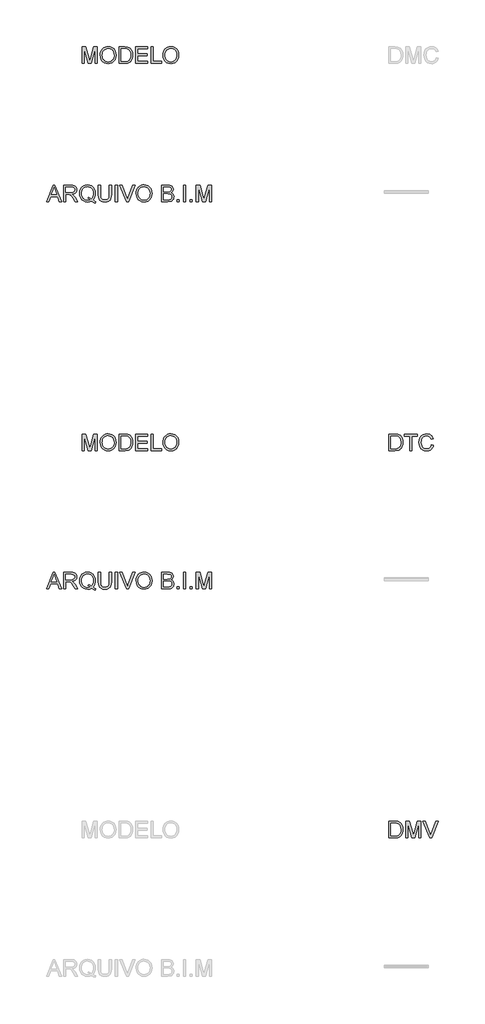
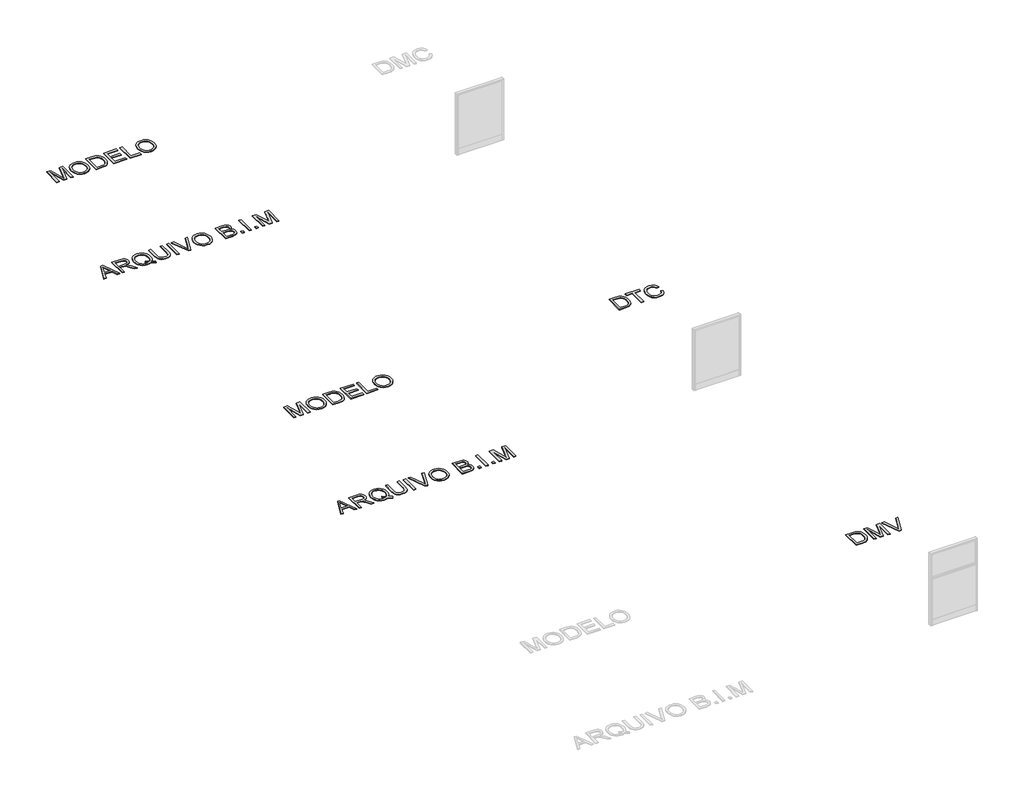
# One storey, part 2 of 3: 6 proxies.
"""IFC4 building model written with IfcOpenShell, lengths in millimetres."""

from ifc_helpers import new_model, si_unit, origin, origin_with_axes, place, context, project, spatial, polyline, outline, extrude, element, save

model = new_model("IFC4")

# Units and contexts
model_context = context("Model", 3, world=origin())
ifc_project = project(units=[si_unit("LENGTHUNIT", "METRE", prefix="MILLI")], contexts=[model_context])

# Site, building, storey
site = spatial("IfcSite", under=ifc_project)
building = spatial("IfcBuilding", under=site)
storey = spatial("IfcBuildingStorey", under=building, Name="Marelli - Linha DIVISION - Planta Baixa", Elevation=0.0)

# Proxies
placement = place(None, origin())
element("IfcBuildingElementProxy", 1, Name="300mm Arial", ObjectType="300mm Arial", at=placement, inside=storey, context=model_context, shape_type="SweptSolid", body=[
    extrude(outline(polyline([(10588.7720603, -7780.5663201), (10588.7720603, -7479.1973896), (10692.7355121, -7479.1973896), (10746.5198598, -7483.5383972), (10770.5425541, -7491.9077126), (10790.8128521, -7505.0962821), (10811.6533671, -7528.0521186), (10826.4974056, -7556.5997614), (10835.3817558, -7590.1873876), (10838.3432058, -7628.2631741), (10836.338249, -7660.6091985), (10830.3233783, -7689.0740679), (10821.1631167, -7713.3082943), (10809.7219866, -7732.9623899), (10796.5518112, -7748.477813), (10782.2044134, -7760.2960221), (10765.732497, -7769.0608107), (10746.188766, -7775.4159721), (10697.7387073, -7780.5663201), (10588.7720603, -7780.5663201)]), holes=[polyline([(10626.4431766, -7742.8952038), (10693.1033941, -7742.8952038), (10720.6761497, -7741.5340404), (10741.5902411, -7737.4505502), (10757.3723787, -7730.8838566), (10769.5492727, -7722.0730828), (10782.6366747, -7705.7667134), (10792.468321, -7684.6594839), (10798.6211474, -7658.6594239), (10800.6720895, -7627.6745629), (10796.6529787, -7586.6189322), (10784.5956463, -7556.3054558), (10766.7809607, -7535.4833349), (10745.4897902, -7522.9017706), (10723.8215407, -7518.3768221), (10692.0733245, -7516.8685059), (10626.4431766, -7516.8685059), (10626.4431766, -7742.8952038)])]), origin_with_axes(), (0.0, 0.0, 1.0), 10.0),
    extrude(outline(polyline([(10890.1409908, -7780.5663201), (10890.1409908, -7479.1973896), (10954.9617983, -7479.1973896), (11016.6188207, -7691.6124536), (11029.0532321, -7735.9790223), (11042.5177132, -7687.9336337), (11103.144666, -7479.1973896), (11167.9654735, -7479.1973896), (11167.9654735, -7780.5663201), (11130.2943572, -7780.5663201), (11130.2943572, -7516.8685059), (11054.5842426, -7780.5663201), (11003.5222217, -7780.5663201), (10927.8121071, -7516.8685059), (10927.8121071, -7780.5663201), (10890.1409908, -7780.5663201)])), origin_with_axes(), (0.0, 0.0, 1.0), 10.0),
    extrude(outline(polyline([(11322.9173699, -7780.5663201), (11202.9878394, -7479.1973896), (11243.3077061, -7479.1973896), (11323.5795575, -7696.3213432), (11339.8399417, -7745.2496485), (11355.8795966, -7696.3213432), (11436.3721772, -7479.1973896), (11476.6920439, -7479.1973896), (11361.839285, -7780.5663201), (11322.9173699, -7780.5663201)])), origin_with_axes(), (0.0, 0.0, 1.0), 10.0),
])
element("IfcBuildingElementProxy", 2, Name="300mm Arial", ObjectType="300mm Arial", at=placement, inside=storey, context=model_context, shape_type="SweptSolid", body=[
    extrude(outline(polyline([(4390.580402, -3280.5663201), (4510.8778144, -2979.1973896), (4542.9571244, -2979.1973896), (4663.2545368, -3280.5663201), (4623.449705, -3280.5663201), (4588.9423738, -3186.3885293), (4464.8189886, -3186.3885293), (4430.3852339, -3280.5663201), (4390.580402, -3280.5663201)]), holes=[polyline([(4478.6513517, -3148.717413), (4575.1835872, -3148.717413), (4548.0338959, -3074.6259792), (4526.9174694, -3016.8685059), (4508.1554877, -3068.1512561), (4478.6513517, -3148.717413)])]), origin_with_axes(), (0.0, 0.0, 1.0), 10.0),
    extrude(outline(polyline([(4703.5008271, -3280.5663201), (4703.5008271, -2979.1973896), (4833.3631714, -2979.1973896), (4868.2659757, -2981.2299376), (4893.6590304, -2987.3275817), (4912.2186771, -2998.5847708), (4926.6212572, -3016.0959537), (4935.8642923, -3037.8101885), (4938.945304, -3061.6765329), (4933.8409413, -3091.3646099), (4918.5278533, -3115.9759154), (4906.9280741, -3126.0052983), (4892.5461874, -3134.0205273), (4855.4360911, -3144.0085235), (4876.8468232, -3160.1217548), (4907.3810288, -3198.8965171), (4957.6337094, -3280.5663201), (4913.855752, -3280.5663201), (4874.6395313, -3218.0999573), (4846.3126176, -3176.750021), (4826.4102017, -3157.2154871), (4808.4943485, -3150.0417882), (4786.642158, -3148.717413), (4741.1719434, -3148.717413), (4741.1719434, -3280.5663201), (4703.5008271, -3280.5663201)]), holes=[polyline([(4741.1719434, -3111.0462967), (4825.4904967, -3111.0462967), (4849.706329, -3109.7127245), (4868.4959019, -3105.7120078), (4882.6409647, -3098.7774322), (4892.9232664, -3088.6422832), (4899.1864574, -3076.3826157), (4901.2741877, -3063.0744845), (4897.2918651, -3044.6987789), (4885.3448973, -3029.8915286), (4864.7894908, -3020.1242616), (4834.9818522, -3016.8685059), (4741.1719434, -3016.8685059), (4741.1719434, -3111.0462967)])]), origin_with_axes(), (0.0, 0.0, 1.0), 10.0),
    extrude(outline(polyline([(5231.2643374, -3244.4403081), (5255.5997314, -3263.036743), (5277.9853508, -3275.8574305), (5267.8318077, -3303.4485802), (5236.7641732, -3289.0460001), (5205.8069033, -3268.205485), (5170.9500843, -3281.0077785), (5132.5983863, -3285.2752096), (5094.0627473, -3280.3547879), (5059.2427164, -3265.5935229), (5030.0788713, -3241.9203165), (5008.5117893, -3210.2640708), (4995.185264, -3172.3630282), (4990.7430889, -3129.9554312), (4995.176067, -3087.511046), (5008.4750011, -3049.0581805), (5029.9593096, -3016.9512794), (5058.9484108, -2993.5447874), (5093.639683, -2979.2525719), (5132.2305043, -2974.4885001), (5171.1248282, -2979.3629365), (5205.9908443, -2993.9862458), (5234.9339603, -3017.3835407), (5256.0595839, -3048.5799339), (5268.9722419, -3085.9199564), (5273.2764612, -3127.7481393), (5270.6644991, -3162.5313819), (5262.8286126, -3193.5990164), (5249.7136194, -3220.9142546), (5231.2643374, -3244.4403081)]), holes=[polyline([(5142.9726585, -3194.3347804), (5174.6472983, -3206.3093393), (5200.215097, -3222.9559996), (5215.6983305, -3205.4816049), (5226.7577829, -3184.1076609), (5233.3934544, -3158.8341679), (5235.6053449, -3129.6611256), (5232.478348, -3096.5057608), (5223.0973571, -3067.8201623), (5207.6922985, -3044.3308969), (5186.4930986, -3026.7645316), (5160.934497, -3015.8108452), (5132.4512335, -3012.1596164), (5110.966925, -3014.0059242), (5091.3956028, -3019.5448474), (5073.7372671, -3028.7763863), (5057.9919177, -3041.7005406), (5045.0516685, -3058.2897193), (5035.8086334, -3078.5163313), (5030.2628123, -3102.3803764), (5028.4142052, -3129.8818548), (5030.2421189, -3156.6659634), (5035.7258599, -3180.1437324), (5044.8654282, -3200.3151621), (5057.6608239, -3217.1802523), (5073.2981079, -3230.4906827), (5090.9633415, -3239.9981331), (5110.6565245, -3245.7026032), (5132.3776571, -3247.6040933), (5153.2917485, -3245.6727128), (5172.918253, -3239.8785714), (5153.6228423, -3229.853787), (5133.2605739, -3223.1767288), (5142.9726585, -3194.3347804)])]), origin_with_axes(), (0.0, 0.0, 1.0), 10.0),
    extrude(outline(polyline([(5527.5564963, -2979.1973896), (5565.2276126, -2979.1973896), (5565.2276126, -3153.0584205), (5562.6708327, -3193.7737604), (5555.0004931, -3225.1265034), (5540.6714894, -3249.3147446), (5518.1387172, -3268.5365788), (5487.3469942, -3281.0905519), (5448.2411381, -3285.2752096), (5409.9906077, -3281.6331779), (5379.4104168, -3270.7070826), (5356.4913685, -3252.8740029), (5341.2242657, -3228.5110178), (5332.6434182, -3195.8338995), (5329.7831357, -3153.0584205), (5329.7831357, -2979.1973896), (5367.454252, -2979.1973896), (5367.454252, -3151.7340454), (5369.3120561, -3185.588386), (5374.8854683, -3209.1604248), (5384.9838291, -3225.4851883), (5400.4164788, -3237.597703), (5420.5396239, -3245.1024957), (5444.709471, -3247.6040933), (5483.0243808, -3242.6560805), (5497.3671801, -3236.4710644), (5508.500209, -3227.812042), (5516.8373347, -3215.6351479), (5522.7924245, -3198.8965171), (5527.5564963, -3151.7340454), (5527.5564963, -2979.1973896)])), origin_with_axes(), (0.0, 0.0, 1.0), 10.0),
    extrude(outline(polyline([(5635.8609557, -3280.5663201), (5635.8609557, -2979.1973896), (5673.532072, -2979.1973896), (5673.532072, -3280.5663201), (5635.8609557, -3280.5663201)])), origin_with_axes(), (0.0, 0.0, 1.0), 10.0),
    extrude(outline(polyline([(5837.9017474, -3280.5663201), (5717.972217, -2979.1973896), (5758.2920837, -2979.1973896), (5838.563935, -3196.3213432), (5854.8243192, -3245.2496485), (5870.8639742, -3196.3213432), (5951.3565547, -2979.1973896), (5991.6764214, -2979.1973896), (5876.8236625, -3280.5663201), (5837.9017474, -3280.5663201)])), origin_with_axes(), (0.0, 0.0, 1.0), 10.0),
    extrude(outline(polyline([(6012.5721187, -3133.8549804), (6015.0829134, -3098.5061192), (6022.6152972, -3067.213157), (6035.1692703, -3039.9760937), (6052.7448326, -3016.7949295), (6074.288922, -2998.2858666), (6098.7484761, -2985.0651074), (6126.1234951, -2977.1326519), (6156.4139789, -2974.4885001), (6195.9428992, -2979.454907), (6231.3883295, -2994.3541278), (6260.8188891, -3018.1376988), (6282.3031976, -3049.7571563), (6295.4365848, -3087.68579), (6299.8143806, -3130.3968896), (6295.2066586, -3173.6782064), (6281.3834926, -3212.140269), (6259.1082378, -3243.8149088), (6229.1442493, -3266.733957), (6194.0023217, -3280.6398965), (6156.1932497, -3285.2752096), (6116.057324, -3280.1524528), (6080.4095587, -3264.7841825), (6051.0525754, -3240.5591531), (6029.7889961, -3208.8661192), (6016.8763381, -3172.3998164), (6012.5721187, -3133.8549804)]), holes=[polyline([(6050.2432351, -3134.2228624), (6052.126331, -3159.1974513), (6057.7756189, -3181.3669401), (6067.1910987, -3200.7313286), (6080.3727705, -3217.2906169), (6096.3963306, -3230.5527628), (6114.3374757, -3240.0257242), (6134.1962056, -3245.709501), (6155.9725205, -3247.6040933), (6178.1213158, -3245.6911069), (6198.2145706, -3239.9521478), (6216.2522846, -3230.3872159), (6232.2344581, -3216.9963113), (6245.3195608, -3200.0875351), (6254.6660627, -3179.9689885), (6260.2739639, -3156.6406715), (6262.1432643, -3130.102584), (6258.9426909, -3096.7540812), (6249.3409708, -3067.9305269), (6233.5864244, -3044.358488), (6211.9273719, -3026.7645316), (6185.7985532, -3015.8108452), (6156.6347081, -3012.1596164), (6135.6148506, -3013.9185522), (6116.1125063, -3019.1953595), (6098.1276752, -3027.9900385), (6081.6603574, -3040.302589), (6067.9153664, -3056.7262208), (6058.0975156, -3077.8541437), (6052.2068052, -3103.6863575), (6050.2432351, -3134.2228624)])]), origin_with_axes(), (0.0, 0.0, 1.0), 10.0),
    extrude(outline(polyline([(6469.334404, -3280.5663201), (6469.334404, -2979.1973896), (6584.3343156, -2979.1973896), (6615.9629702, -2981.4138786), (6640.6570491, -2988.0633457), (6659.5845778, -2999.3113377), (6673.9135815, -3015.3234015), (6682.9358874, -3034.1589597), (6685.9433227, -3053.8774346), (6683.414134, -3072.0232141), (6675.8265679, -3089.0837416), (6663.125442, -3104.0105535), (6645.2555741, -3115.7551862), (6666.6019268, -3126.9020107), (6682.3748674, -3143.8613707), (6692.1145432, -3165.5112261), (6695.3611018, -3190.7295368), (6693.1446128, -3211.7447958), (6686.4951457, -3231.2333445), (6676.5715289, -3247.8064284), (6664.5325906, -3260.0752929), (6649.7897196, -3268.9596431), (6631.7543048, -3275.3791839), (6583.4513989, -3280.5663201), (6469.334404, -3280.5663201)]), holes=[polyline([(6507.0055203, -3101.6285176), (6575.7994534, -3101.6285176), (6615.9721672, -3098.3911561), (6630.0344565, -3092.8085468), (6640.1420143, -3084.4484284), (6646.2396584, -3073.4395597), (6648.2722064, -3059.9106994), (6646.3776141, -3046.7773121), (6640.6938373, -3035.3361821), (6631.4783933, -3026.4058467), (6618.9887996, -3020.8048433), (6570.575529, -3016.8685059), (6507.0055203, -3016.8685059), (6507.0055203, -3101.6285176)]), polyline([(6507.0055203, -3242.8952038), (6584.2607393, -3242.8952038), (6612.2197709, -3241.4236758), (6635.8745832, -3233.2199073), (6651.5463562, -3216.4812765), (6656.1540782, -3204.6538704), (6657.6899855, -3191.0974188), (6655.8873637, -3175.3520694), (6650.4794984, -3161.814012), (6641.0341282, -3151.2282076), (6627.1189917, -3144.3396173), (6607.4097138, -3140.5596298), (6580.5819193, -3139.2996339), (6507.0055203, -3139.2996339), (6507.0055203, -3242.8952038)])]), origin_with_axes(), (0.0, 0.0, 1.0), 10.0),
    extrude(outline(polyline([(6751.8677763, -3280.5663201), (6751.8677763, -3242.8952038), (6789.5388926, -3242.8952038), (6789.5388926, -3280.5663201), (6751.8677763, -3280.5663201)])), origin_with_axes(), (0.0, 0.0, 1.0), 10.0),
    extrude(outline(polyline([(6869.5900147, -3280.5663201), (6869.5900147, -2979.1973896), (6907.261131, -2979.1973896), (6907.261131, -3280.5663201), (6869.5900147, -3280.5663201)])), origin_with_axes(), (0.0, 0.0, 1.0), 10.0),
    extrude(outline(polyline([(6987.3122532, -3280.5663201), (6987.3122532, -3242.8952038), (7024.9833695, -3242.8952038), (7024.9833695, -3280.5663201), (6987.3122532, -3280.5663201)])), origin_with_axes(), (0.0, 0.0, 1.0), 10.0),
    extrude(outline(polyline([(7100.3256021, -3280.5663201), (7100.3256021, -2979.1973896), (7165.1464096, -2979.1973896), (7226.803432, -3191.6124536), (7239.2378435, -3235.9790223), (7252.7023245, -3187.9336337), (7313.3292773, -2979.1973896), (7378.1500848, -2979.1973896), (7378.1500848, -3280.5663201), (7340.4789685, -3280.5663201), (7340.4789685, -3016.8685059), (7264.7688539, -3280.5663201), (7213.706833, -3280.5663201), (7137.9967184, -3016.8685059), (7137.9967184, -3280.5663201), (7100.3256021, -3280.5663201)])), origin_with_axes(), (0.0, 0.0, 1.0), 10.0),
])
element("IfcBuildingElementProxy", 3, Name="300mm Arial", ObjectType="300mm Arial", at=placement, inside=storey, context=model_context, shape_type="SweptSolid", body=[
    extrude(outline(polyline([(10588.7720603, -780.5663201), (10588.7720603, -479.1973896), (10692.7355121, -479.1973896), (10746.5198598, -483.5383972), (10770.5425541, -491.9077126), (10790.8128521, -505.0962821), (10811.6533671, -528.0521186), (10826.4974056, -556.5997614), (10835.3817558, -590.1873876), (10838.3432058, -628.2631741), (10836.338249, -660.6091985), (10830.3233783, -689.0740679), (10821.1631167, -713.3082943), (10809.7219866, -732.9623899), (10796.5518112, -748.477813), (10782.2044134, -760.2960221), (10765.732497, -769.0608107), (10746.188766, -775.4159721), (10697.7387073, -780.5663201), (10588.7720603, -780.5663201)]), holes=[polyline([(10626.4431766, -742.8952038), (10693.1033941, -742.8952038), (10720.6761497, -741.5340404), (10741.5902411, -737.4505502), (10757.3723787, -730.8838566), (10769.5492727, -722.0730828), (10782.6366747, -705.7667134), (10792.468321, -684.6594839), (10798.6211474, -658.6594239), (10800.6720895, -627.6745629), (10796.6529787, -586.6189322), (10784.5956463, -556.3054558), (10766.7809607, -535.4833349), (10745.4897902, -522.9017706), (10723.8215407, -518.3768221), (10692.0733245, -516.8685059), (10626.4431766, -516.8685059), (10626.4431766, -742.8952038)])]), origin_with_axes(), (0.0, 0.0, 1.0), 10.0),
    extrude(outline(polyline([(10965.4832234, -780.5663201), (10965.4832234, -516.8685059), (10866.5965431, -516.8685059), (10866.5965431, -479.1973896), (11102.04102, -479.1973896), (11102.04102, -516.8685059), (11003.1543397, -516.8685059), (11003.1543397, -780.5663201), (10965.4832234, -780.5663201)])), origin_with_axes(), (0.0, 0.0, 1.0), 10.0),
    extrude(outline(polyline([(11356.321055, -673.4390831), (11393.9921713, -683.1511677), (11386.5379624, -706.5783531), (11376.6097471, -727.0486868), (11364.2075253, -744.5621691), (11349.3312971, -759.1187997), (11332.3167549, -770.5622291), (11313.4995908, -778.7361071), (11292.879805, -783.640434), (11270.4573974, -785.2752096), (11226.7622134, -780.3271968), (11192.0617442, -765.4831583), (11165.4638759, -741.2581289), (11146.0764948, -708.1671434), (11134.2398916, -669.2636224), (11130.2943572, -627.6009865), (11134.7549264, -583.6574821), (11148.136634, -545.7104543), (11169.7405041, -514.9647166), (11198.8675611, -492.6250824), (11233.4116805, -479.0226457), (11271.2667378, -474.4885001), (11312.5706888, -480.3562179), (11330.539425, -487.6908652), (11346.719335, -497.9593714), (11360.8437043, -510.8904235), (11372.6458186, -526.2127086), (11389.2832818, -564.0309777), (11351.6121655, -573.0072984), (11338.5523547, -545.5357104), (11320.7100779, -526.6909552), (11297.864606, -515.7924511), (11269.7952098, -512.1596164), (11237.4399883, -516.1879242), (11210.8605141, -528.2728478), (11190.6913838, -547.1451941), (11177.5671936, -571.5357704), (11170.3659035, -599.1085259), (11167.9654735, -627.5274101), (11170.8073619, -662.3290468), (11179.3330272, -692.421794), (11193.864366, -716.6560205), (11214.7232751, -733.8820949), (11239.7300537, -744.1735937), (11266.705001, -747.6040933), (11298.1497146, -742.931992), (11324.3521097, -728.9156879), (11344.1349639, -705.702334), (11356.321055, -673.4390831)])), origin_with_axes(), (0.0, 0.0, 1.0), 10.0),
])
element("IfcBuildingElementProxy", 4, Name="300mm Arial", ObjectType="300mm Arial", at=placement, inside=storey, context=model_context, shape_type="SweptSolid", body=[
    extrude(outline(polyline([(5033.1230948, -780.5663201), (5033.1230948, -479.1973896), (5097.9439023, -479.1973896), (5159.6009247, -691.6124536), (5172.0353362, -735.9790223), (5185.4998172, -687.9336337), (5246.12677, -479.1973896), (5310.9475775, -479.1973896), (5310.9475775, -780.5663201), (5273.2764612, -780.5663201), (5273.2764612, -516.8685059), (5197.5663466, -780.5663201), (5146.5043257, -780.5663201), (5070.7942111, -516.8685059), (5070.7942111, -780.5663201), (5033.1230948, -780.5663201)])), origin_with_axes(), (0.0, 0.0, 1.0), 10.0),
    extrude(outline(polyline([(5362.7453625, -633.8549804), (5365.2561571, -598.5061192), (5372.7885409, -567.213157), (5385.342514, -539.9760937), (5402.9180763, -516.7949295), (5424.4621657, -498.2858666), (5448.9217198, -485.0651074), (5476.2967388, -477.1326519), (5506.5872226, -474.4885001), (5546.116143, -479.454907), (5581.5615732, -494.3541278), (5610.9921328, -518.1376988), (5632.4764413, -549.7571563), (5645.6098286, -587.68579), (5649.9876243, -630.3968896), (5645.3799023, -673.6782064), (5631.5567363, -712.140269), (5609.2814815, -743.8149088), (5579.317493, -766.733957), (5544.1755654, -780.6398965), (5506.3664934, -785.2752096), (5466.2305677, -780.1524528), (5430.5828024, -764.7841825), (5401.2258192, -740.5591531), (5379.9622398, -708.8661192), (5367.0495818, -672.3998164), (5362.7453625, -633.8549804)]), holes=[polyline([(5400.4164788, -634.2228624), (5402.2995747, -659.1974513), (5407.9488626, -681.3669401), (5417.3643424, -700.7313286), (5430.5460142, -717.2906169), (5446.5695743, -730.5527628), (5464.5107194, -740.0257242), (5484.3694493, -745.709501), (5506.1457642, -747.6040933), (5528.2945596, -745.6911069), (5548.3878143, -739.9521478), (5566.4255284, -730.3872159), (5582.4077018, -716.9963113), (5595.4928045, -700.0875351), (5604.8393064, -679.9689885), (5610.4472076, -656.6406715), (5612.316508, -630.102584), (5609.1159346, -596.7540812), (5599.5142146, -567.9305269), (5583.7596681, -544.358488), (5562.1006157, -526.7645316), (5535.9717969, -515.8108452), (5506.8079518, -512.1596164), (5485.7880943, -513.9185522), (5466.28575, -519.1953595), (5448.300919, -527.9900385), (5431.8336012, -540.302589), (5418.0886101, -556.7262208), (5408.2707594, -577.8541437), (5402.3800489, -603.6863575), (5400.4164788, -634.2228624)])]), origin_with_axes(), (0.0, 0.0, 1.0), 10.0),
    extrude(outline(polyline([(5701.7854092, -780.5663201), (5701.7854092, -479.1973896), (5805.7488611, -479.1973896), (5859.5332088, -483.5383972), (5883.555903, -491.9077126), (5903.826201, -505.0962821), (5924.666716, -528.0521186), (5939.5107545, -556.5997614), (5948.3951047, -590.1873876), (5951.3565547, -628.2631741), (5949.3515979, -660.6091985), (5943.3367273, -689.0740679), (5934.1764656, -713.3082943), (5922.7353355, -732.9623899), (5909.5651601, -748.477813), (5895.2177623, -760.2960221), (5878.745846, -769.0608107), (5859.202115, -775.4159721), (5810.7520562, -780.5663201), (5701.7854092, -780.5663201)]), holes=[polyline([(5739.4565255, -742.8952038), (5806.1167431, -742.8952038), (5833.6894986, -741.5340404), (5854.60359, -737.4505502), (5870.3857276, -730.8838566), (5882.5626217, -722.0730828), (5895.6500236, -705.7667134), (5905.4816699, -684.6594839), (5911.6344963, -658.6594239), (5913.6854384, -627.6745629), (5909.6663276, -586.6189322), (5897.6089953, -556.3054558), (5879.7943096, -535.4833349), (5858.5031392, -522.9017706), (5836.8348896, -518.3768221), (5805.0866735, -516.8685059), (5739.4565255, -516.8685059), (5739.4565255, -742.8952038)])]), origin_with_axes(), (0.0, 0.0, 1.0), 10.0),
    extrude(outline(polyline([(6003.1543397, -780.5663201), (6003.1543397, -479.1973896), (6219.7632584, -479.1973896), (6219.7632584, -516.8685059), (6040.825456, -516.8685059), (6040.825456, -606.3374072), (6210.3454794, -606.3374072), (6210.3454794, -644.0085235), (6040.825456, -644.0085235), (6040.825456, -742.8952038), (6224.472148, -742.8952038), (6224.472148, -780.5663201), (6003.1543397, -780.5663201)])), origin_with_axes(), (0.0, 0.0, 1.0), 10.0),
    extrude(outline(polyline([(6280.9788224, -780.5663201), (6280.9788224, -479.1973896), (6318.6499387, -479.1973896), (6318.6499387, -742.8952038), (6469.334404, -742.8952038), (6469.334404, -780.5663201), (6280.9788224, -780.5663201)])), origin_with_axes(), (0.0, 0.0, 1.0), 10.0),
    extrude(outline(polyline([(6497.5877412, -633.8549804), (6500.0985358, -598.5061192), (6507.6309197, -567.213157), (6520.1848927, -539.9760937), (6537.7604551, -516.7949295), (6559.3045444, -498.2858666), (6583.7640986, -485.0651074), (6611.1391175, -477.1326519), (6641.4296013, -474.4885001), (6680.9585217, -479.454907), (6716.4039519, -494.3541278), (6745.8345115, -518.1376988), (6767.3188201, -549.7571563), (6780.4522073, -587.68579), (6784.830003, -630.3968896), (6780.222281, -673.6782064), (6766.3991151, -712.140269), (6744.1238603, -743.8149088), (6714.1598717, -766.733957), (6679.0179442, -780.6398965), (6641.2088721, -785.2752096), (6601.0729464, -780.1524528), (6565.4251811, -764.7841825), (6536.0681979, -740.5591531), (6514.8046186, -708.8661192), (6501.8919605, -672.3998164), (6497.5877412, -633.8549804)]), holes=[polyline([(6535.2588575, -634.2228624), (6537.1419535, -659.1974513), (6542.7912413, -681.3669401), (6552.2067212, -700.7313286), (6565.3883929, -717.2906169), (6581.4119531, -730.5527628), (6599.3530981, -740.0257242), (6619.2118281, -745.709501), (6640.9881429, -747.6040933), (6663.1369383, -745.6911069), (6683.230193, -739.9521478), (6701.2679071, -730.3872159), (6717.2500805, -716.9963113), (6730.3351832, -700.0875351), (6739.6816852, -679.9689885), (6745.2895863, -656.6406715), (6747.1588867, -630.102584), (6743.9583134, -596.7540812), (6734.3565933, -567.9305269), (6718.6020468, -544.358488), (6696.9429944, -526.7645316), (6670.8141757, -515.8108452), (6641.6503305, -512.1596164), (6620.630473, -513.9185522), (6601.1281287, -519.1953595), (6583.1432977, -527.9900385), (6566.6759799, -540.302589), (6552.9309888, -556.7262208), (6543.1131381, -577.8541437), (6537.2224276, -603.6863575), (6535.2588575, -634.2228624)])]), origin_with_axes(), (0.0, 0.0, 1.0), 10.0),
])
element("IfcBuildingElementProxy", 5, Name="300mm Arial", ObjectType="300mm Arial", at=placement, inside=storey, context=model_context, shape_type="SweptSolid", body=[
    extrude(outline(polyline([(4390.580402, 3719.4336799), (4510.8778144, 4020.8026104), (4542.9571244, 4020.8026104), (4663.2545368, 3719.4336799), (4623.449705, 3719.4336799), (4588.9423738, 3813.6114707), (4464.8189886, 3813.6114707), (4430.3852339, 3719.4336799), (4390.580402, 3719.4336799)]), holes=[polyline([(4478.6513517, 3851.282587), (4575.1835872, 3851.282587), (4548.0338959, 3925.3740208), (4526.9174694, 3983.1314941), (4508.1554877, 3931.8487439), (4478.6513517, 3851.282587)])]), origin_with_axes(), (0.0, 0.0, 1.0), 10.0),
    extrude(outline(polyline([(4703.5008271, 3719.4336799), (4703.5008271, 4020.8026104), (4833.3631714, 4020.8026104), (4868.2659757, 4018.7700624), (4893.6590304, 4012.6724183), (4912.2186771, 4001.4152292), (4926.6212572, 3983.9040463), (4935.8642923, 3962.1898115), (4938.945304, 3938.3234671), (4933.8409413, 3908.6353901), (4918.5278533, 3884.0240846), (4906.9280741, 3873.9947017), (4892.5461874, 3865.9794727), (4855.4360911, 3855.9914765), (4876.8468232, 3839.8782452), (4907.3810288, 3801.1034829), (4957.6337094, 3719.4336799), (4913.855752, 3719.4336799), (4874.6395313, 3781.9000427), (4846.3126176, 3823.249979), (4826.4102017, 3842.7845129), (4808.4943485, 3849.9582118), (4786.642158, 3851.282587), (4741.1719434, 3851.282587), (4741.1719434, 3719.4336799), (4703.5008271, 3719.4336799)]), holes=[polyline([(4741.1719434, 3888.9537033), (4825.4904967, 3888.9537033), (4849.706329, 3890.2872755), (4868.4959019, 3894.2879922), (4882.6409647, 3901.2225678), (4892.9232664, 3911.3577168), (4899.1864574, 3923.6173843), (4901.2741877, 3936.9255155), (4897.2918651, 3955.3012211), (4885.3448973, 3970.1084714), (4864.7894908, 3979.8757384), (4834.9818522, 3983.1314941), (4741.1719434, 3983.1314941), (4741.1719434, 3888.9537033)])]), origin_with_axes(), (0.0, 0.0, 1.0), 10.0),
    extrude(outline(polyline([(5231.2643374, 3755.5596919), (5255.5997314, 3736.963257), (5277.9853508, 3724.1425695), (5267.8318077, 3696.5514198), (5236.7641732, 3710.9539999), (5205.8069033, 3731.794515), (5170.9500843, 3718.9922215), (5132.5983863, 3714.7247904), (5094.0627473, 3719.6452121), (5059.2427164, 3734.4064771), (5030.0788713, 3758.0796835), (5008.5117893, 3789.7359292), (4995.185264, 3827.6369718), (4990.7430889, 3870.0445688), (4995.176067, 3912.488954), (5008.4750011, 3950.9418195), (5029.9593096, 3983.0487206), (5058.9484108, 4006.4552126), (5093.639683, 4020.7474281), (5132.2305043, 4025.5114999), (5171.1248282, 4020.6370635), (5205.9908443, 4006.0137542), (5234.9339603, 3982.6164593), (5256.0595839, 3951.4200661), (5268.9722419, 3914.0800436), (5273.2764612, 3872.2518607), (5270.6644991, 3837.4686181), (5262.8286126, 3806.4009836), (5249.7136194, 3779.0857454), (5231.2643374, 3755.5596919)]), holes=[polyline([(5142.9726585, 3805.6652196), (5174.6472983, 3793.6906607), (5200.215097, 3777.0440004), (5215.6983305, 3794.5183951), (5226.7577829, 3815.8923391), (5233.3934544, 3841.1658321), (5235.6053449, 3870.3388744), (5232.478348, 3903.4942392), (5223.0973571, 3932.1798377), (5207.6922985, 3955.6691031), (5186.4930986, 3973.2354684), (5160.934497, 3984.1891548), (5132.4512335, 3987.8403836), (5110.966925, 3985.9940758), (5091.3956028, 3980.4551526), (5073.7372671, 3971.2236137), (5057.9919177, 3958.2994594), (5045.0516685, 3941.7102807), (5035.8086334, 3921.4836687), (5030.2628123, 3897.6196236), (5028.4142052, 3870.1181452), (5030.2421189, 3843.3340366), (5035.7258599, 3819.8562676), (5044.8654282, 3799.6848379), (5057.6608239, 3782.8197477), (5073.2981079, 3769.5093173), (5090.9633415, 3760.0018669), (5110.6565245, 3754.2973968), (5132.3776571, 3752.3959067), (5153.2917485, 3754.3272872), (5172.918253, 3760.1214286), (5153.6228423, 3770.146213), (5133.2605739, 3776.8232712), (5142.9726585, 3805.6652196)])]), origin_with_axes(), (0.0, 0.0, 1.0), 10.0),
    extrude(outline(polyline([(5527.5564963, 4020.8026104), (5565.2276126, 4020.8026104), (5565.2276126, 3846.9415795), (5562.6708327, 3806.2262396), (5555.0004931, 3774.8734966), (5540.6714894, 3750.6852554), (5518.1387172, 3731.4634212), (5487.3469942, 3718.9094481), (5448.2411381, 3714.7247904), (5409.9906077, 3718.3668221), (5379.4104168, 3729.2929174), (5356.4913685, 3747.1259971), (5341.2242657, 3771.4889822), (5332.6434182, 3804.1661005), (5329.7831357, 3846.9415795), (5329.7831357, 4020.8026104), (5367.454252, 4020.8026104), (5367.454252, 3848.2659546), (5369.3120561, 3814.411614), (5374.8854683, 3790.8395752), (5384.9838291, 3774.5148117), (5400.4164788, 3762.402297), (5420.5396239, 3754.8975043), (5444.709471, 3752.3959067), (5483.0243808, 3757.3439195), (5497.3671801, 3763.5289356), (5508.500209, 3772.187958), (5516.8373347, 3784.3648521), (5522.7924245, 3801.1034829), (5527.5564963, 3848.2659546), (5527.5564963, 4020.8026104)])), origin_with_axes(), (0.0, 0.0, 1.0), 10.0),
    extrude(outline(polyline([(5635.8609557, 3719.4336799), (5635.8609557, 4020.8026104), (5673.532072, 4020.8026104), (5673.532072, 3719.4336799), (5635.8609557, 3719.4336799)])), origin_with_axes(), (0.0, 0.0, 1.0), 10.0),
    extrude(outline(polyline([(5837.9017474, 3719.4336799), (5717.972217, 4020.8026104), (5758.2920837, 4020.8026104), (5838.563935, 3803.6786568), (5854.8243192, 3754.7503515), (5870.8639742, 3803.6786568), (5951.3565547, 4020.8026104), (5991.6764214, 4020.8026104), (5876.8236625, 3719.4336799), (5837.9017474, 3719.4336799)])), origin_with_axes(), (0.0, 0.0, 1.0), 10.0),
    extrude(outline(polyline([(6012.5721187, 3866.1450196), (6015.0829134, 3901.4938808), (6022.6152972, 3932.786843), (6035.1692703, 3960.0239063), (6052.7448326, 3983.2050705), (6074.288922, 4001.7141334), (6098.7484761, 4014.9348926), (6126.1234951, 4022.8673481), (6156.4139789, 4025.5114999), (6195.9428992, 4020.545093), (6231.3883295, 4005.6458722), (6260.8188891, 3981.8623012), (6282.3031976, 3950.2428437), (6295.4365848, 3912.31421), (6299.8143806, 3869.6031104), (6295.2066586, 3826.3217936), (6281.3834926, 3787.859731), (6259.1082378, 3756.1850912), (6229.1442493, 3733.266043), (6194.0023217, 3719.3601035), (6156.1932497, 3714.7247904), (6116.057324, 3719.8475472), (6080.4095587, 3735.2158175), (6051.0525754, 3759.4408469), (6029.7889961, 3791.1338808), (6016.8763381, 3827.6001836), (6012.5721187, 3866.1450196)]), holes=[polyline([(6050.2432351, 3865.7771376), (6052.126331, 3840.8025487), (6057.7756189, 3818.6330599), (6067.1910987, 3799.2686714), (6080.3727705, 3782.7093831), (6096.3963306, 3769.4472372), (6114.3374757, 3759.9742758), (6134.1962056, 3754.290499), (6155.9725205, 3752.3959067), (6178.1213158, 3754.3088931), (6198.2145706, 3760.0478522), (6216.2522846, 3769.6127841), (6232.2344581, 3783.0036887), (6245.3195608, 3799.9124649), (6254.6660627, 3820.0310115), (6260.2739639, 3843.3593285), (6262.1432643, 3869.897416), (6258.9426909, 3903.2459188), (6249.3409708, 3932.0694731), (6233.5864244, 3955.641512), (6211.9273719, 3973.2354684), (6185.7985532, 3984.1891548), (6156.6347081, 3987.8403836), (6135.6148506, 3986.0814478), (6116.1125063, 3980.8046405), (6098.1276752, 3972.0099615), (6081.6603574, 3959.697411), (6067.9153664, 3943.2737792), (6058.0975156, 3922.1458563), (6052.2068052, 3896.3136425), (6050.2432351, 3865.7771376)])]), origin_with_axes(), (0.0, 0.0, 1.0), 10.0),
    extrude(outline(polyline([(6469.334404, 3719.4336799), (6469.334404, 4020.8026104), (6584.3343156, 4020.8026104), (6615.9629702, 4018.5861214), (6640.6570491, 4011.9366543), (6659.5845778, 4000.6886623), (6673.9135815, 3984.6765985), (6682.9358874, 3965.8410403), (6685.9433227, 3946.1225654), (6683.414134, 3927.9767859), (6675.8265679, 3910.9162584), (6663.125442, 3895.9894465), (6645.2555741, 3884.2448138), (6666.6019268, 3873.0979893), (6682.3748674, 3856.1386293), (6692.1145432, 3834.4887739), (6695.3611018, 3809.2704632), (6693.1446128, 3788.2552042), (6686.4951457, 3768.7666555), (6676.5715289, 3752.1935716), (6664.5325906, 3739.9247071), (6649.7897196, 3731.0403569), (6631.7543048, 3724.6208161), (6583.4513989, 3719.4336799), (6469.334404, 3719.4336799)]), holes=[polyline([(6507.0055203, 3898.3714824), (6575.7994534, 3898.3714824), (6615.9721672, 3901.6088439), (6630.0344565, 3907.1914532), (6640.1420143, 3915.5515716), (6646.2396584, 3926.5604403), (6648.2722064, 3940.0893006), (6646.3776141, 3953.2226879), (6640.6938373, 3964.6638179), (6631.4783933, 3973.5941533), (6618.9887996, 3979.1951567), (6570.575529, 3983.1314941), (6507.0055203, 3983.1314941), (6507.0055203, 3898.3714824)]), polyline([(6507.0055203, 3757.1047962), (6584.2607393, 3757.1047962), (6612.2197709, 3758.5763242), (6635.8745832, 3766.7800927), (6651.5463562, 3783.5187235), (6656.1540782, 3795.3461296), (6657.6899855, 3808.9025812), (6655.8873637, 3824.6479306), (6650.4794984, 3838.185988), (6641.0341282, 3848.7717924), (6627.1189917, 3855.6603827), (6607.4097138, 3859.4403702), (6580.5819193, 3860.7003661), (6507.0055203, 3860.7003661), (6507.0055203, 3757.1047962)])]), origin_with_axes(), (0.0, 0.0, 1.0), 10.0),
    extrude(outline(polyline([(6751.8677763, 3719.4336799), (6751.8677763, 3757.1047962), (6789.5388926, 3757.1047962), (6789.5388926, 3719.4336799), (6751.8677763, 3719.4336799)])), origin_with_axes(), (0.0, 0.0, 1.0), 10.0),
    extrude(outline(polyline([(6869.5900147, 3719.4336799), (6869.5900147, 4020.8026104), (6907.261131, 4020.8026104), (6907.261131, 3719.4336799), (6869.5900147, 3719.4336799)])), origin_with_axes(), (0.0, 0.0, 1.0), 10.0),
    extrude(outline(polyline([(6987.3122532, 3719.4336799), (6987.3122532, 3757.1047962), (7024.9833695, 3757.1047962), (7024.9833695, 3719.4336799), (6987.3122532, 3719.4336799)])), origin_with_axes(), (0.0, 0.0, 1.0), 10.0),
    extrude(outline(polyline([(7100.3256021, 3719.4336799), (7100.3256021, 4020.8026104), (7165.1464096, 4020.8026104), (7226.803432, 3808.3875464), (7239.2378435, 3764.0209777), (7252.7023245, 3812.0663663), (7313.3292773, 4020.8026104), (7378.1500848, 4020.8026104), (7378.1500848, 3719.4336799), (7340.4789685, 3719.4336799), (7340.4789685, 3983.1314941), (7264.7688539, 3719.4336799), (7213.706833, 3719.4336799), (7137.9967184, 3983.1314941), (7137.9967184, 3719.4336799), (7100.3256021, 3719.4336799)])), origin_with_axes(), (0.0, 0.0, 1.0), 10.0),
])
element("IfcBuildingElementProxy", 6, Name="300mm Arial", ObjectType="300mm Arial", at=placement, inside=storey, context=model_context, shape_type="SweptSolid", body=[
    extrude(outline(polyline([(5033.1230948, 6219.4336799), (5033.1230948, 6520.8026104), (5097.9439023, 6520.8026104), (5159.6009247, 6308.3875464), (5172.0353362, 6264.0209777), (5185.4998172, 6312.0663663), (5246.12677, 6520.8026104), (5310.9475775, 6520.8026104), (5310.9475775, 6219.4336799), (5273.2764612, 6219.4336799), (5273.2764612, 6483.1314941), (5197.5663466, 6219.4336799), (5146.5043257, 6219.4336799), (5070.7942111, 6483.1314941), (5070.7942111, 6219.4336799), (5033.1230948, 6219.4336799)])), origin_with_axes(), (0.0, 0.0, 1.0), 10.0),
    extrude(outline(polyline([(5362.7453625, 6366.1450196), (5365.2561571, 6401.4938808), (5372.7885409, 6432.786843), (5385.342514, 6460.0239063), (5402.9180763, 6483.2050705), (5424.4621657, 6501.7141334), (5448.9217198, 6514.9348926), (5476.2967388, 6522.8673481), (5506.5872226, 6525.5114999), (5546.116143, 6520.545093), (5581.5615732, 6505.6458722), (5610.9921328, 6481.8623012), (5632.4764413, 6450.2428437), (5645.6098286, 6412.31421), (5649.9876243, 6369.6031104), (5645.3799023, 6326.3217936), (5631.5567363, 6287.859731), (5609.2814815, 6256.1850912), (5579.317493, 6233.266043), (5544.1755654, 6219.3601035), (5506.3664934, 6214.7247904), (5466.2305677, 6219.8475472), (5430.5828024, 6235.2158175), (5401.2258192, 6259.4408469), (5379.9622398, 6291.1338808), (5367.0495818, 6327.6001836), (5362.7453625, 6366.1450196)]), holes=[polyline([(5400.4164788, 6365.7771376), (5402.2995747, 6340.8025487), (5407.9488626, 6318.6330599), (5417.3643424, 6299.2686714), (5430.5460142, 6282.7093831), (5446.5695743, 6269.4472372), (5464.5107194, 6259.9742758), (5484.3694493, 6254.290499), (5506.1457642, 6252.3959067), (5528.2945596, 6254.3088931), (5548.3878143, 6260.0478522), (5566.4255284, 6269.6127841), (5582.4077018, 6283.0036887), (5595.4928045, 6299.9124649), (5604.8393064, 6320.0310115), (5610.4472076, 6343.3593285), (5612.316508, 6369.897416), (5609.1159346, 6403.2459188), (5599.5142146, 6432.0694731), (5583.7596681, 6455.641512), (5562.1006157, 6473.2354684), (5535.9717969, 6484.1891548), (5506.8079518, 6487.8403836), (5485.7880943, 6486.0814478), (5466.28575, 6480.8046405), (5448.300919, 6472.0099615), (5431.8336012, 6459.697411), (5418.0886101, 6443.2737792), (5408.2707594, 6422.1458563), (5402.3800489, 6396.3136425), (5400.4164788, 6365.7771376)])]), origin_with_axes(), (0.0, 0.0, 1.0), 10.0),
    extrude(outline(polyline([(5701.7854092, 6219.4336799), (5701.7854092, 6520.8026104), (5805.7488611, 6520.8026104), (5859.5332088, 6516.4616028), (5883.555903, 6508.0922874), (5903.826201, 6494.9037179), (5924.666716, 6471.9478814), (5939.5107545, 6443.4002386), (5948.3951047, 6409.8126124), (5951.3565547, 6371.7368259), (5949.3515979, 6339.3908015), (5943.3367273, 6310.9259321), (5934.1764656, 6286.6917057), (5922.7353355, 6267.0376101), (5909.5651601, 6251.522187), (5895.2177623, 6239.7039779), (5878.745846, 6230.9391893), (5859.202115, 6224.5840279), (5810.7520562, 6219.4336799), (5701.7854092, 6219.4336799)]), holes=[polyline([(5739.4565255, 6257.1047962), (5806.1167431, 6257.1047962), (5833.6894986, 6258.4659596), (5854.60359, 6262.5494498), (5870.3857276, 6269.1161434), (5882.5626217, 6277.9269172), (5895.6500236, 6294.2332866), (5905.4816699, 6315.3405161), (5911.6344963, 6341.3405761), (5913.6854384, 6372.3254371), (5909.6663276, 6413.3810678), (5897.6089953, 6443.6945442), (5879.7943096, 6464.5166651), (5858.5031392, 6477.0982294), (5836.8348896, 6481.6231779), (5805.0866735, 6483.1314941), (5739.4565255, 6483.1314941), (5739.4565255, 6257.1047962)])]), origin_with_axes(), (0.0, 0.0, 1.0), 10.0),
    extrude(outline(polyline([(6003.1543397, 6219.4336799), (6003.1543397, 6520.8026104), (6219.7632584, 6520.8026104), (6219.7632584, 6483.1314941), (6040.825456, 6483.1314941), (6040.825456, 6393.6625928), (6210.3454794, 6393.6625928), (6210.3454794, 6355.9914765), (6040.825456, 6355.9914765), (6040.825456, 6257.1047962), (6224.472148, 6257.1047962), (6224.472148, 6219.4336799), (6003.1543397, 6219.4336799)])), origin_with_axes(), (0.0, 0.0, 1.0), 10.0),
    extrude(outline(polyline([(6280.9788224, 6219.4336799), (6280.9788224, 6520.8026104), (6318.6499387, 6520.8026104), (6318.6499387, 6257.1047962), (6469.334404, 6257.1047962), (6469.334404, 6219.4336799), (6280.9788224, 6219.4336799)])), origin_with_axes(), (0.0, 0.0, 1.0), 10.0),
    extrude(outline(polyline([(6497.5877412, 6366.1450196), (6500.0985358, 6401.4938808), (6507.6309197, 6432.786843), (6520.1848927, 6460.0239063), (6537.7604551, 6483.2050705), (6559.3045444, 6501.7141334), (6583.7640986, 6514.9348926), (6611.1391175, 6522.8673481), (6641.4296013, 6525.5114999), (6680.9585217, 6520.545093), (6716.4039519, 6505.6458722), (6745.8345115, 6481.8623012), (6767.3188201, 6450.2428437), (6780.4522073, 6412.31421), (6784.830003, 6369.6031104), (6780.222281, 6326.3217936), (6766.3991151, 6287.859731), (6744.1238603, 6256.1850912), (6714.1598717, 6233.266043), (6679.0179442, 6219.3601035), (6641.2088721, 6214.7247904), (6601.0729464, 6219.8475472), (6565.4251811, 6235.2158175), (6536.0681979, 6259.4408469), (6514.8046186, 6291.1338808), (6501.8919605, 6327.6001836), (6497.5877412, 6366.1450196)]), holes=[polyline([(6535.2588575, 6365.7771376), (6537.1419535, 6340.8025487), (6542.7912413, 6318.6330599), (6552.2067212, 6299.2686714), (6565.3883929, 6282.7093831), (6581.4119531, 6269.4472372), (6599.3530981, 6259.9742758), (6619.2118281, 6254.290499), (6640.9881429, 6252.3959067), (6663.1369383, 6254.3088931), (6683.230193, 6260.0478522), (6701.2679071, 6269.6127841), (6717.2500805, 6283.0036887), (6730.3351832, 6299.9124649), (6739.6816852, 6320.0310115), (6745.2895863, 6343.3593285), (6747.1588867, 6369.897416), (6743.9583134, 6403.2459188), (6734.3565933, 6432.0694731), (6718.6020468, 6455.641512), (6696.9429944, 6473.2354684), (6670.8141757, 6484.1891548), (6641.6503305, 6487.8403836), (6620.630473, 6486.0814478), (6601.1281287, 6480.8046405), (6583.1432977, 6472.0099615), (6566.6759799, 6459.697411), (6552.9309888, 6443.2737792), (6543.1131381, 6422.1458563), (6537.2224276, 6396.3136425), (6535.2588575, 6365.7771376)])]), origin_with_axes(), (0.0, 0.0, 1.0), 10.0),
])

save(model, "model.ifc")
